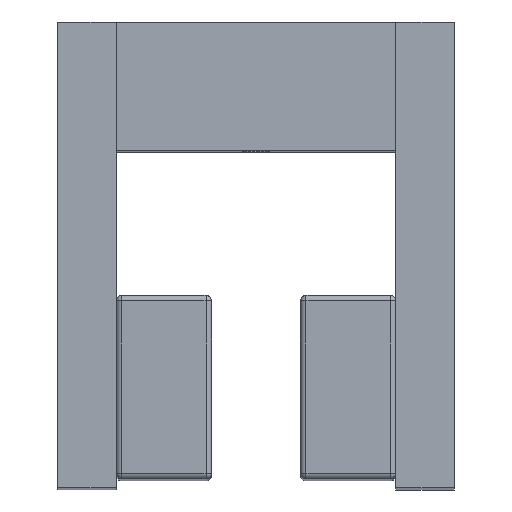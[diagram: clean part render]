
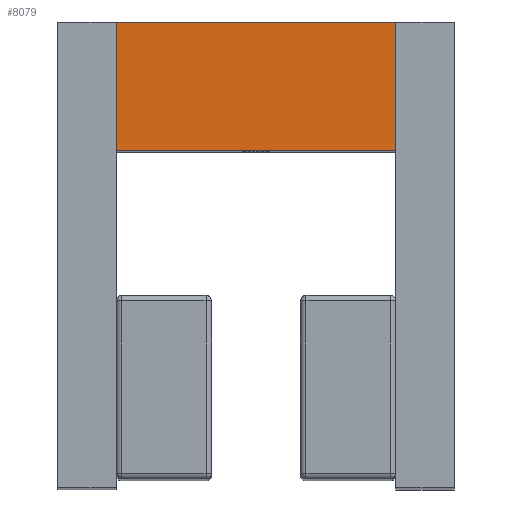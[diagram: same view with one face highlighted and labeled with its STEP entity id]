
A CAD part, top view. The second image highlights one B-rep face of the part: STEP entity #8079.
In plain terms, the highlighted planar face has unit normal (0, 0, 1).
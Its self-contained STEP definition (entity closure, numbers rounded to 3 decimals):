
#1139 = VECTOR ( 'NONE', #6948, 1000. ) ;
#1767 = EDGE_CURVE ( 'NONE', #8183, #15843, #14192, .T. ) ;
#2153 = VERTEX_POINT ( 'NONE', #6888 ) ;
#2744 = PLANE ( 'NONE',  #6945 ) ;
#3322 = DIRECTION ( 'NONE',  ( 0., 1., 0. ) ) ;
#4030 = DIRECTION ( 'NONE',  ( -1., 0., 0. ) ) ;
#5004 = CARTESIAN_POINT ( 'NONE',  ( -7.625, 3.5, 0. ) ) ;
#5143 = EDGE_CURVE ( 'NONE', #15843, #2153, #10217, .T. ) ;
#5746 = VECTOR ( 'NONE', #6398, 1000. ) ;
#6088 = EDGE_LOOP ( 'NONE', ( #8249, #7385, #6236, #15228 ) ) ;
#6236 = ORIENTED_EDGE ( 'NONE', *, *, #5143, .T. ) ;
#6398 = DIRECTION ( 'NONE',  ( -1., 0., 0. ) ) ;
#6888 = CARTESIAN_POINT ( 'NONE',  ( 7.625, 3.5, 0. ) ) ;
#6945 = AXIS2_PLACEMENT_3D ( 'NONE', #15751, #11875, #4030 ) ;
#6948 = DIRECTION ( 'NONE',  ( 0., -1., 0. ) ) ;
#7385 = ORIENTED_EDGE ( 'NONE', *, *, #1767, .T. ) ;
#7754 = CARTESIAN_POINT ( 'NONE',  ( 7.625, -3.5, 0. ) ) ;
#8079 = ADVANCED_FACE ( 'NONE', ( #15669 ), #2744, .F. ) ;
#8183 = VERTEX_POINT ( 'NONE', #13490 ) ;
#8249 = ORIENTED_EDGE ( 'NONE', *, *, #10939, .T. ) ;
#9187 = LINE ( 'NONE', #11613, #5746 ) ;
#10147 = VERTEX_POINT ( 'NONE', #5004 ) ;
#10217 = LINE ( 'NONE', #14969, #16353 ) ;
#10702 = VECTOR ( 'NONE', #12591, 1000. ) ;
#10939 = EDGE_CURVE ( 'NONE', #10147, #8183, #14617, .T. ) ;
#11613 = CARTESIAN_POINT ( 'NONE',  ( -7.625, 3.5, 0. ) ) ;
#11875 = DIRECTION ( 'NONE',  ( 0., 0., -1. ) ) ;
#12539 = CARTESIAN_POINT ( 'NONE',  ( 7.625, -3.5, 0. ) ) ;
#12591 = DIRECTION ( 'NONE',  ( 1., 0., 0. ) ) ;
#13490 = CARTESIAN_POINT ( 'NONE',  ( -7.625, -3.5, 0. ) ) ;
#14192 = LINE ( 'NONE', #12539, #10702 ) ;
#14617 = LINE ( 'NONE', #14781, #1139 ) ;
#14781 = CARTESIAN_POINT ( 'NONE',  ( -7.625, -3.5, 0. ) ) ;
#14969 = CARTESIAN_POINT ( 'NONE',  ( 7.625, 3.5, 0. ) ) ;
#15228 = ORIENTED_EDGE ( 'NONE', *, *, #16200, .T. ) ;
#15669 = FACE_OUTER_BOUND ( 'NONE', #6088, .T. ) ;
#15751 = CARTESIAN_POINT ( 'NONE',  ( -7.625, 3.5, 0. ) ) ;
#15843 = VERTEX_POINT ( 'NONE', #7754 ) ;
#16200 = EDGE_CURVE ( 'NONE', #2153, #10147, #9187, .T. ) ;
#16353 = VECTOR ( 'NONE', #3322, 1000. ) ;
